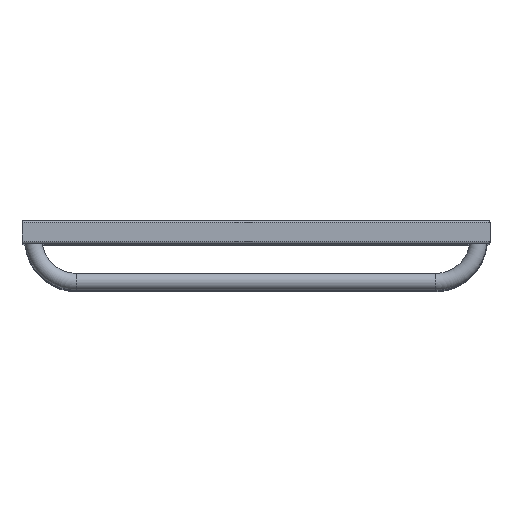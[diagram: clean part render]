
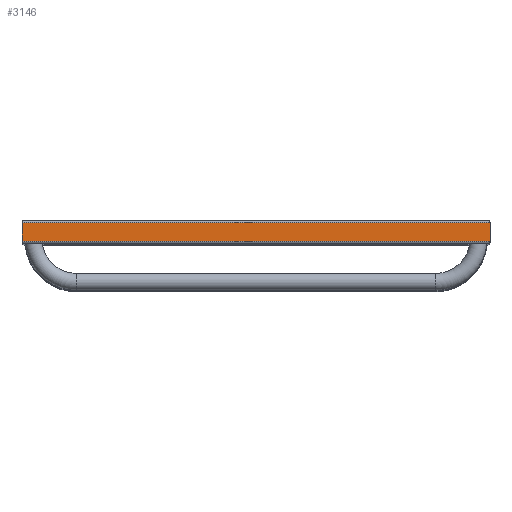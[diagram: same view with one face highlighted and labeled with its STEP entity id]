
A CAD part, top view. The second image highlights one B-rep face of the part: STEP entity #3146.
In plain terms, the highlighted planar face has unit normal (0, 0, 1).
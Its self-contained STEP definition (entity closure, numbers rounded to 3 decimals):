
#243=CARTESIAN_POINT('',(300.0,12.,1055.0));
#244=VERTEX_POINT('',#243);
#251=CARTESIAN_POINT('',(300.0,-12.,1055.0));
#252=VERTEX_POINT('',#251);
#253=CARTESIAN_POINT('',(300.0,12.,1055.0));
#254=DIRECTION('',(0.0,-1.0,0.0));
#255=VECTOR('',#254,24.);
#256=LINE('',#253,#255);
#257=EDGE_CURVE('',#244,#252,#256,.T.);
#2997=CARTESIAN_POINT('',(-300.0,12.,1055.0));
#2998=VERTEX_POINT('',#2997);
#2999=CARTESIAN_POINT('',(-300.0,12.,1055.0));
#3000=DIRECTION('',(1.0,0.0,0.0));
#3001=VECTOR('',#3000,600.0);
#3002=LINE('',#2999,#3001);
#3003=EDGE_CURVE('',#2998,#244,#3002,.T.);
#3041=CARTESIAN_POINT('',(-300.0,-12.,1055.0));
#3042=VERTEX_POINT('',#3041);
#3049=CARTESIAN_POINT('',(-300.0,-12.,1055.0));
#3050=DIRECTION('',(0.0,1.0,0.0));
#3051=VECTOR('',#3050,24.);
#3052=LINE('',#3049,#3051);
#3053=EDGE_CURVE('',#3042,#2998,#3052,.T.);
#3105=CARTESIAN_POINT('',(300.0,-12.,1055.0));
#3106=DIRECTION('',(-1.0,0.0,0.0));
#3107=VECTOR('',#3106,600.0);
#3108=LINE('',#3105,#3107);
#3109=EDGE_CURVE('',#252,#3042,#3108,.T.);
#3135=CARTESIAN_POINT('',(285.0,0.,1055.0));
#3136=DIRECTION('',(0.0,0.0,1.0));
#3137=DIRECTION('',(1.0,0.0,0.0));
#3138=AXIS2_PLACEMENT_3D('',#3135,#3136,#3137);
#3139=PLANE('',#3138);
#3140=ORIENTED_EDGE('',*,*,#3003,.F.);
#3141=ORIENTED_EDGE('',*,*,#3053,.F.);
#3142=ORIENTED_EDGE('',*,*,#3109,.F.);
#3143=ORIENTED_EDGE('',*,*,#257,.F.);
#3144=EDGE_LOOP('',(#3140,#3141,#3142,#3143));
#3145=FACE_OUTER_BOUND('',#3144,.T.);
#3146=ADVANCED_FACE('',(#3145),#3139,.T.);
